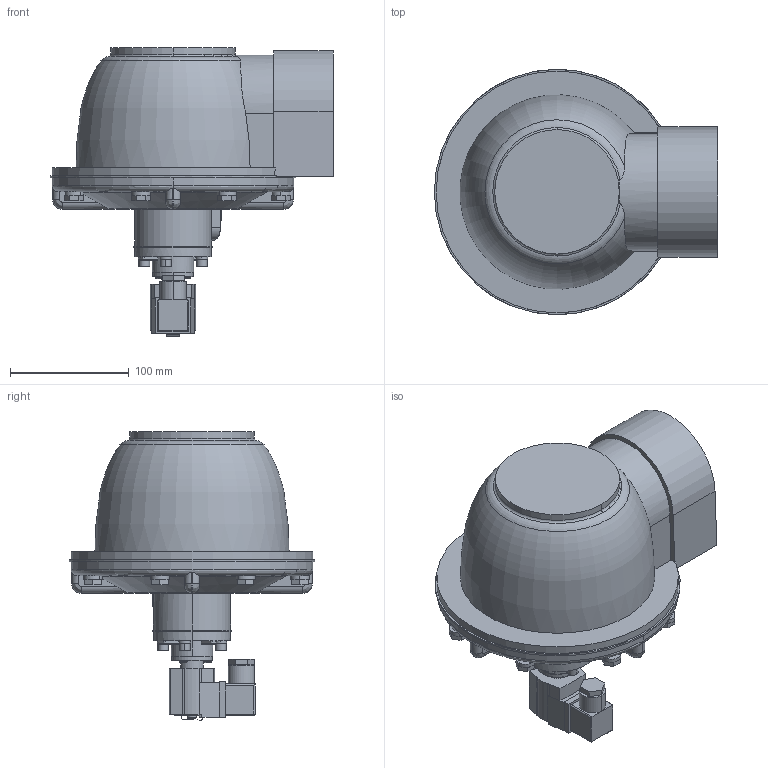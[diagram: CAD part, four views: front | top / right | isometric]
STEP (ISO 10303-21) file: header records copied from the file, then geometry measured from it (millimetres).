
FILE_DESCRIPTION((''),'2;1');
FILE_NAME('EMCF76E4_ASM','2025-02-28T13:18:21',('EMC03156'),(''),'CREO PARAMETRIC BY PTC INC, 2019010','CREO PARAMETRIC BY PTC INC, 2019010','');
FILE_SCHEMA(('CONFIG_CONTROL_DESIGN'));
Length unit declared in the file: millimetre
Products named in the file (4): EMCF25E4_4_1; EMCF25E4_4_2; EMCF25E4_4_ASM; EMCF76E4_ASM
Assembly tree (3 placements, depth 3):
  EMCF76E4_ASM
    EMCF25E4_4_ASM
      EMCF25E4_4_1
      EMCF25E4_4_2
Bounding box: 239 x 207 x 243.7 mm (x, y, z)
Volume: 3364328.1 mm3; surface area: 190849 mm2
Topology: 2 solids, 3 shells, 467 faces, 1157 edges, 715 vertices
Faces by surface type: plane 276, cylinder 141, torus 27, sphere 8, bspline 8, cone 6, revolution 1
Entity records: 14349 total; most frequent: CARTESIAN_POINT 2988, DIRECTION 2505, ORIENTED_EDGE 2280, EDGE_CURVE 1155, AXIS2_PLACEMENT_3D 959, VERTEX_POINT 715, VECTOR 586, LINE 586
